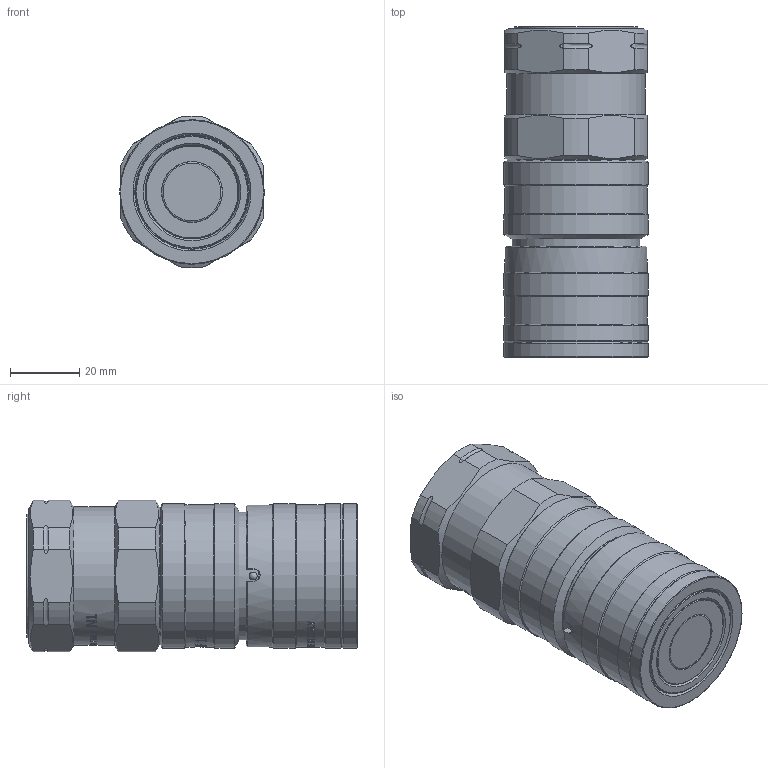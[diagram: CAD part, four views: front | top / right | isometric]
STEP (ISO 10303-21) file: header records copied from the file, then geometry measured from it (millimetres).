
FILE_DESCRIPTION(/* description */ (''),/* implementation_level */ '2;1');
FILE_NAME(/* name */ 'NC06N050003.stp',/* time_stamp */ '2024-08-26T16:42:11+02:00',/* author */ ('thomas.belotti'),/* organization */ (''),/* preprocessor_version */ 'ST-DEVELOPER v20',/* originating_system */ 'Autodesk Inventor 2024',/* authorisation */ '');
FILE_SCHEMA (('AUTOMOTIVE_DESIGN { 1 0 10303 214 3 1 1 }'));
Products named in the file (1): Parte13
Bounding box: 41.7 x 95.29 x 43.73 mm (x, y, z)
Volume: 112704 mm3; surface area: 26287.2 mm2
Topology: 1 solids, 6 shells, 1586 faces, 4485 edges, 2979 vertices
Faces by surface type: bspline 1014, plane 414, cylinder 119, cone 24, torus 9, sphere 6
Full cylindrical faces by diameter (mm): 2.3 x4, 17.5 x1, 17.6 x1, 27 x1, 27.1 x1, 29 x1, 29.999 x1, 30 x1, 31 x1, 32.5 x1, 33.05 x1, 35.5 x1, 36.9 x1, 36.982 x1, 37 x1, 37.1 x1, 37.3 x1, 40 x1, 41 x3, 41.7 x5
Entity records: 67902 total; most frequent: CARTESIAN_POINT 31856, ORIENTED_EDGE 8966, EDGE_CURVE 4483, DIRECTION 4046, VERTEX_POINT 2979, B_SPLINE_CURVE_WITH_KNOTS 2119, LINE 1772, VECTOR 1772
